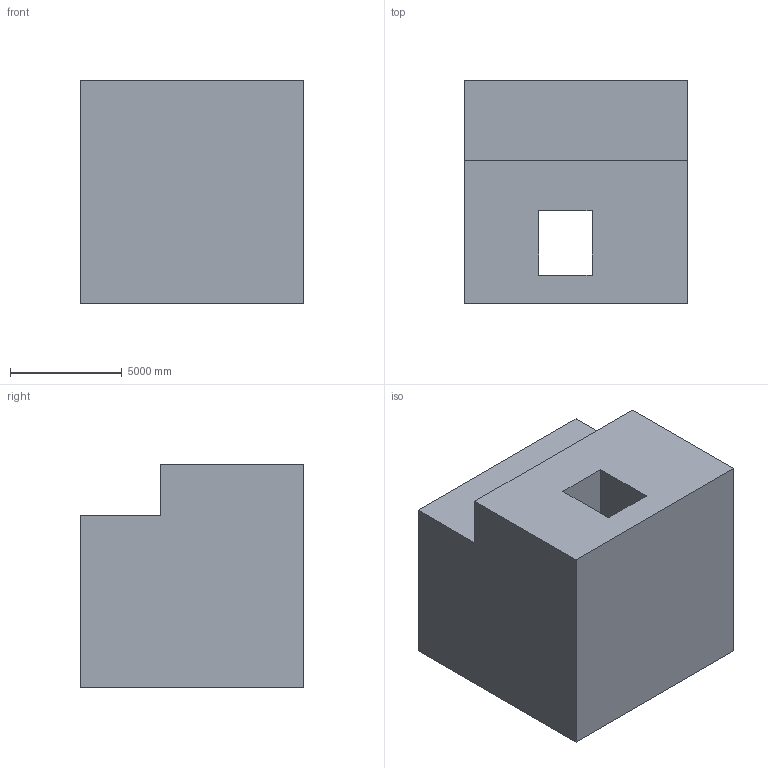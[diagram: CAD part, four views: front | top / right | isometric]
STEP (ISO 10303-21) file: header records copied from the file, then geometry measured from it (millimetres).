
FILE_DESCRIPTION (( 'STEP AP203' ), '1' );
FILE_NAME ('22.STEP', '2022-08-31T11:11:30', ( 'user' ), ( '' ), 'SwSTEP 2.0', 'SolidWorks 2021', '' );
FILE_SCHEMA (( 'CONFIG_CONTROL_DESIGN' ));
Length unit declared in the file: centimetre
Products named in the file (1): 22
Bounding box: 10000 x 10000 x 10000 mm (x, y, z)
Volume: 848617091150.1 mm3; surface area: 675466483.1 mm2
Topology: 1 solids, 1 shells, 12 faces, 30 edges, 20 vertices
Faces by surface type: plane 12
Entity records: 435 total; most frequent: CARTESIAN_POINT 63, ORIENTED_EDGE 60, DIRECTION 56, VECTOR 30, EDGE_CURVE 30, LINE 30, VERTEX_POINT 20, EDGE_LOOP 14
